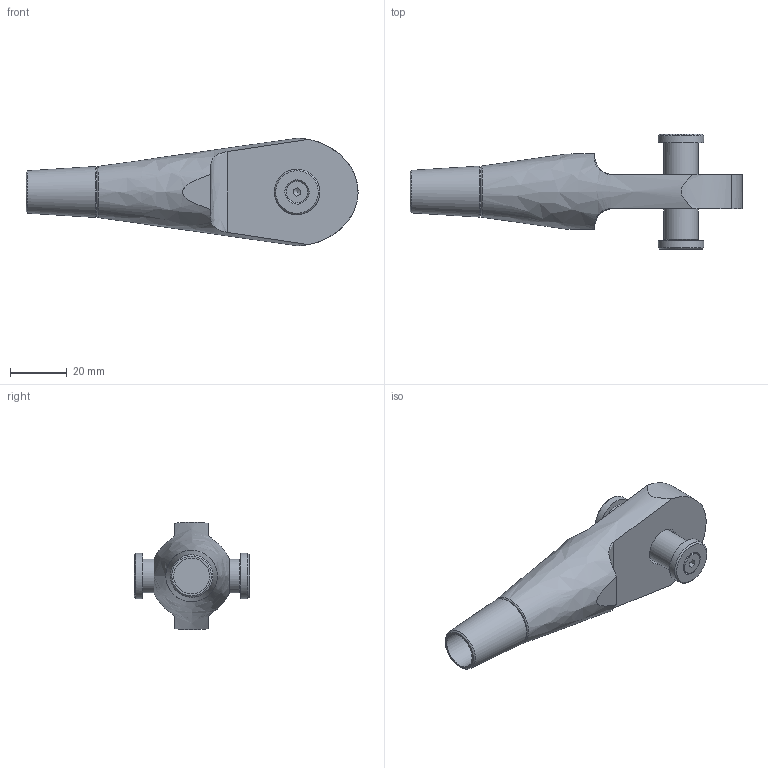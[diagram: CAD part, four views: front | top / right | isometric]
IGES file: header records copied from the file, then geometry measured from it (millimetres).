
Global section: file name: 520-012-OES; native system: Autodesk Inventor 2016; preprocessor: unknown; author: Administrator; date: 20200626.100855; units: centimetre
Bounding box: 117 x 40.78 x 37.82 mm (x, y, z)
Volume: 44073 mm3; surface area: 12732.4 mm2
Topology: 2 solids, 3 shells, 49 faces, 119 edges, 81 vertices
Faces by surface type: bspline 49
